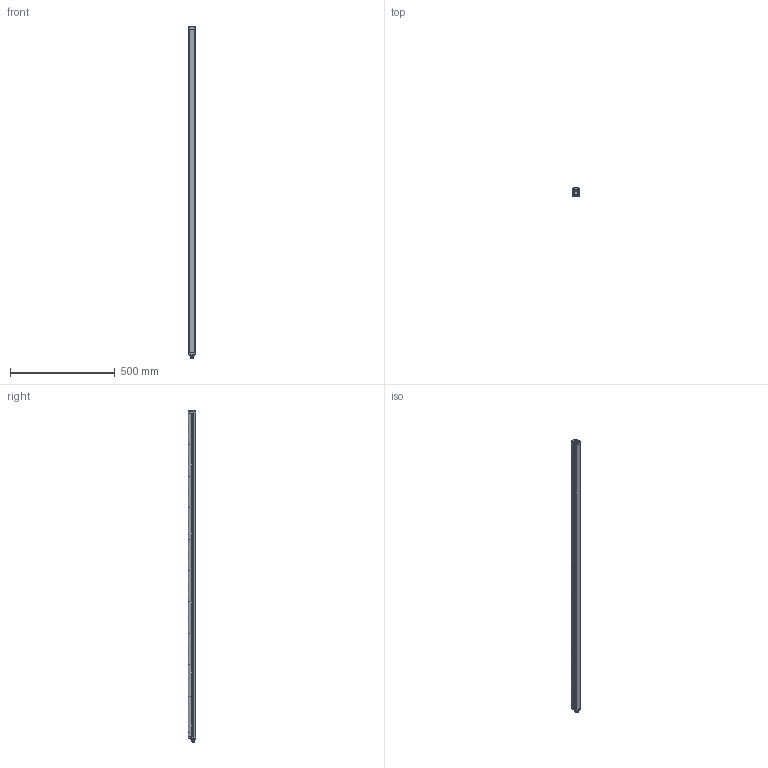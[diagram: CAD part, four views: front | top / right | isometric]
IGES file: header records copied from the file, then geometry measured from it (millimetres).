
Global section: file name: D:\Studi\DSD-0166.igs; preprocessor: I-DEAS 3D IGES Translator 11; date: 20080609.142809; units: millimetre
Bounding box: 32.3 x 36.9 x 1583.34 mm (x, y, z)
Volume: 1591323.2 mm3; surface area: 368094.2 mm2
Topology: 12 solids, 12 shells, 1638 faces, 6373 edges, 5206 vertices
Faces by surface type: bspline 1638
